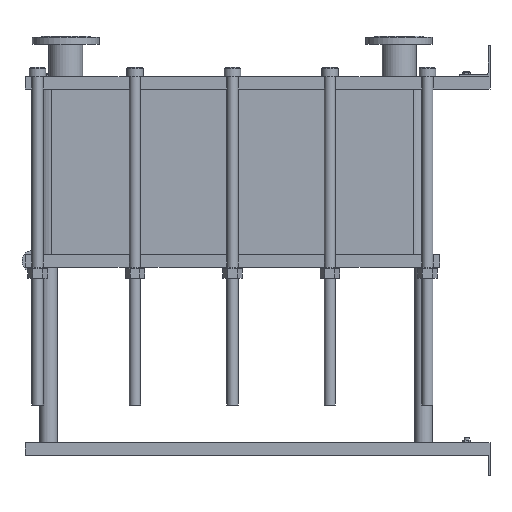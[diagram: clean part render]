
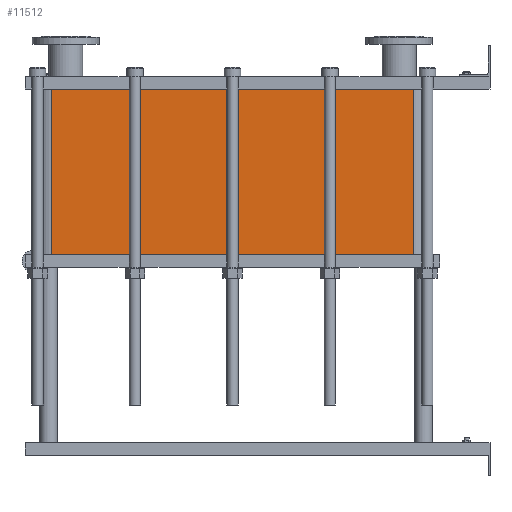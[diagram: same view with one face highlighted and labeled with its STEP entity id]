
A CAD part, left-side view. The second image highlights one B-rep face of the part: STEP entity #11512.
In plain terms, the highlighted planar face has unit normal (-1, 0, 0).
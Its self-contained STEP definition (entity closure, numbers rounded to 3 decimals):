
#1129=LINE('',#23232,#2102);
#1130=LINE('',#23236,#2103);
#1131=LINE('',#23238,#2104);
#1132=LINE('',#23239,#2105);
#2102=VECTOR('',#15887,10.);
#2103=VECTOR('',#15892,10.);
#2104=VECTOR('',#15893,10.);
#2105=VECTOR('',#15894,10.);
#3267=FACE_OUTER_BOUND('',#4093,.T.);
#4093=EDGE_LOOP('',(#10103,#10104,#10105,#10106));
#5642=VERTEX_POINT('',#23229);
#5643=VERTEX_POINT('',#23231);
#5644=VERTEX_POINT('',#23235);
#5645=VERTEX_POINT('',#23237);
#7159=EDGE_CURVE('',#5643,#5642,#1129,.T.);
#7161=EDGE_CURVE('',#5642,#5644,#1130,.T.);
#7162=EDGE_CURVE('',#5645,#5644,#1131,.T.);
#7163=EDGE_CURVE('',#5645,#5643,#1132,.T.);
#10103=ORIENTED_EDGE('',*,*,#7161,.T.);
#10104=ORIENTED_EDGE('',*,*,#7162,.F.);
#10105=ORIENTED_EDGE('',*,*,#7163,.T.);
#10106=ORIENTED_EDGE('',*,*,#7159,.T.);
#10857=PLANE('',#12751);
#11512=ADVANCED_FACE('',(#3267),#10857,.T.);
#12751=AXIS2_PLACEMENT_3D('',#23234,#15890,#15891);
#15887=DIRECTION('',(0.,0.,-1.));
#15890=DIRECTION('center_axis',(-1.,0.,0.));
#15891=DIRECTION('ref_axis',(0.,1.,0.));
#15892=DIRECTION('',(0.,-1.,0.));
#15893=DIRECTION('',(0.,0.,-1.));
#15894=DIRECTION('',(0.,1.,0.));
#23229=CARTESIAN_POINT('',(-200.,1414.,-534.75));
#23231=CARTESIAN_POINT('',(-200.,1414.,0.));
#23232=CARTESIAN_POINT('',(-200.,1414.,0.));
#23234=CARTESIAN_POINT('Origin',(-200.,248.,0.));
#23235=CARTESIAN_POINT('',(-200.,248.,-534.75));
#23236=CARTESIAN_POINT('',(-200.,539.5,-534.75));
#23237=CARTESIAN_POINT('',(-200.,248.,0.));
#23238=CARTESIAN_POINT('',(-200.,248.,0.));
#23239=CARTESIAN_POINT('',(-200.,248.,0.));
